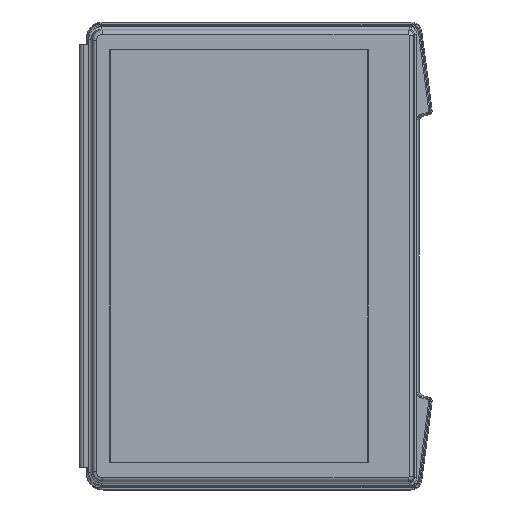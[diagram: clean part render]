
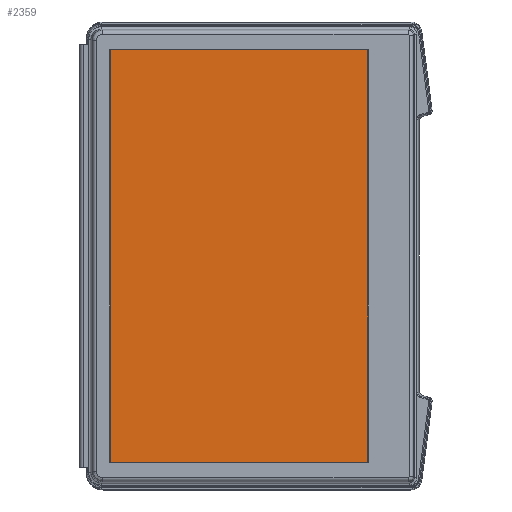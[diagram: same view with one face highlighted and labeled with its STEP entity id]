
A CAD part, top view. The second image highlights one B-rep face of the part: STEP entity #2359.
In plain terms, the highlighted planar face has unit normal (0, 0, 1).
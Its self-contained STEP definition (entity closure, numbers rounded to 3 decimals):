
#2359=ADVANCED_FACE('',(#3556),#2918,.T.);
#2918=PLANE('',#16529);
#3556=FACE_OUTER_BOUND('',#4525,.T.);
#4525=EDGE_LOOP('',(#9771,#9772,#9773,#9774,#9775,#9776,#9777,#9778));
#5638=LINE('',#27910,#6663);
#5639=LINE('',#27915,#6664);
#5640=LINE('',#27919,#6665);
#5641=LINE('',#27923,#6666);
#6663=VECTOR('',#19623,1.);
#6664=VECTOR('',#19626,1.);
#6665=VECTOR('',#19629,1.);
#6666=VECTOR('',#19632,1.);
#9771=ORIENTED_EDGE('',*,*,#14528,.T.);
#9772=ORIENTED_EDGE('',*,*,#14529,.F.);
#9773=ORIENTED_EDGE('',*,*,#14530,.F.);
#9774=ORIENTED_EDGE('',*,*,#14531,.F.);
#9775=ORIENTED_EDGE('',*,*,#14532,.T.);
#9776=ORIENTED_EDGE('',*,*,#14533,.T.);
#9777=ORIENTED_EDGE('',*,*,#14534,.T.);
#9778=ORIENTED_EDGE('',*,*,#14535,.T.);
#12596=VERTEX_POINT('',#27911);
#12597=VERTEX_POINT('',#27912);
#12598=VERTEX_POINT('',#27914);
#12599=VERTEX_POINT('',#27916);
#12600=VERTEX_POINT('',#27918);
#12601=VERTEX_POINT('',#27920);
#12602=VERTEX_POINT('',#27922);
#12603=VERTEX_POINT('',#27924);
#14528=EDGE_CURVE('',#12596,#12597,#5638,.T.);
#14529=EDGE_CURVE('',#12598,#12597,#15525,.T.);
#14530=EDGE_CURVE('',#12599,#12598,#5639,.T.);
#14531=EDGE_CURVE('',#12600,#12599,#15526,.T.);
#14532=EDGE_CURVE('',#12600,#12601,#5640,.T.);
#14533=EDGE_CURVE('',#12601,#12602,#15527,.T.);
#14534=EDGE_CURVE('',#12602,#12603,#5641,.T.);
#14535=EDGE_CURVE('',#12603,#12596,#15528,.T.);
#15525=ELLIPSE('',#16525,0.202,0.2);
#15526=ELLIPSE('',#16526,0.202,0.2);
#15527=ELLIPSE('',#16527,0.202,0.2);
#15528=ELLIPSE('',#16528,0.202,0.2);
#16525=AXIS2_PLACEMENT_3D('',#27913,#19624,#19625);
#16526=AXIS2_PLACEMENT_3D('',#27917,#19627,#19628);
#16527=AXIS2_PLACEMENT_3D('',#27921,#19630,#19631);
#16528=AXIS2_PLACEMENT_3D('',#27925,#19633,#19634);
#16529=AXIS2_PLACEMENT_3D('',#27926,#19635,#19636);
#19623=DIRECTION('',(0.,1.,0.));
#19624=DIRECTION('',(0.,0.,-1.));
#19625=DIRECTION('',(-0.707,-0.707,0.));
#19626=DIRECTION('',(1.,0.,0.));
#19627=DIRECTION('',(0.,0.,-1.));
#19628=DIRECTION('',(0.707,-0.707,0.));
#19629=DIRECTION('',(0.,-1.,0.));
#19630=DIRECTION('',(0.,0.,1.));
#19631=DIRECTION('',(0.707,0.707,0.));
#19632=DIRECTION('',(1.,0.,0.));
#19633=DIRECTION('',(0.,0.,1.));
#19634=DIRECTION('',(-0.707,0.707,0.));
#19635=DIRECTION('',(0.,0.,1.));
#19636=DIRECTION('',(-1.,0.,0.));
#27910=CARTESIAN_POINT('',(338.233,-246.,18.3));
#27911=CARTESIAN_POINT('',(338.233,-245.421,18.3));
#27912=CARTESIAN_POINT('',(338.233,245.421,18.3));
#27913=CARTESIAN_POINT('',(338.032,245.419,18.3));
#27914=CARTESIAN_POINT('',(338.033,245.62,18.3));
#27915=CARTESIAN_POINT('',(31.613,245.62,18.3));
#27916=CARTESIAN_POINT('',(32.192,245.62,18.3));
#27917=CARTESIAN_POINT('',(32.193,245.419,18.3));
#27918=CARTESIAN_POINT('',(31.992,245.421,18.3));
#27919=CARTESIAN_POINT('',(31.992,-246.,18.3));
#27920=CARTESIAN_POINT('',(31.992,-245.421,18.3));
#27921=CARTESIAN_POINT('',(32.193,-245.419,18.3));
#27922=CARTESIAN_POINT('',(32.192,-245.62,18.3));
#27923=CARTESIAN_POINT('',(31.613,-245.62,18.3));
#27924=CARTESIAN_POINT('',(338.033,-245.62,18.3));
#27925=CARTESIAN_POINT('',(338.032,-245.419,18.3));
#27926=CARTESIAN_POINT('',(31.613,-246.,18.3));
